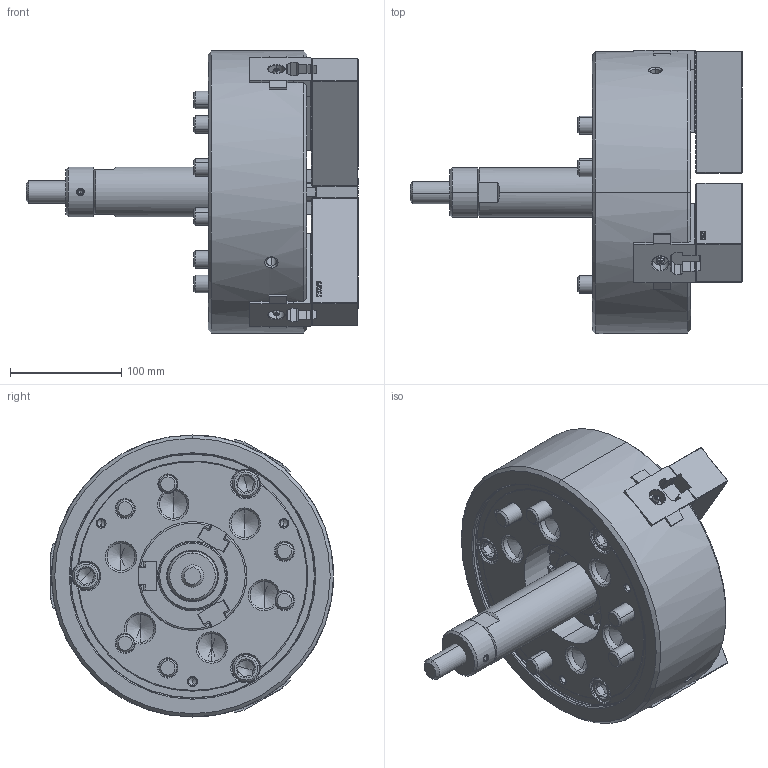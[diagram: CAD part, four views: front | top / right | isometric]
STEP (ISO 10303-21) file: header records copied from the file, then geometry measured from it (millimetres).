
FILE_DESCRIPTION (( 'STEP AP214' ), '1' );
FILE_NAME ('DT1_NL10_OUTSIDE_VIEW_UC.STEP', '2026-03-19T06:26:12', ( '' ), ( '' ), 'SwSTEP 2.0', 'SolidWorks 2022', '' );
FILE_SCHEMA (( 'AUTOMOTIVE_DESIGN' ));
Length unit declared in the file: millimetre
Products named in the file (11): DT1_NL10_DN^DT1_NL10; DT1_NL10_BASE^DT1_NL10; DT1_NL10_TNUT^DT1_NL10; DT1_NL10_SOFTJAW^DT1_NL10; DT1_NL10_M12x35^DT1_NL10; DT1_NL10_COVER^DT1_NL10; DT1_NL10_M16x85^DT1_NL10; DT1_NL10_OUTSIDE_VIEW_UC; DT1_NL10_M5x12^DT1_NL10; Copy of 61P335751^DT1_NL10; DT1_NL10_DRAWSCREW^DT1_NL10
Assembly tree (26 placements, depth 2):
  DT1_NL10_OUTSIDE_VIEW_UC
    DT1_NL10_SOFTJAW^DT1_NL10  x3
    DT1_NL10_TNUT^DT1_NL10  x3
    DT1_NL10_COVER^DT1_NL10
    DT1_NL10_DRAWSCREW^DT1_NL10
    Copy of 61P335751^DT1_NL10
    DT1_NL10_M16x85^DT1_NL10  x6
    DT1_NL10_M12x35^DT1_NL10  x6
    DT1_NL10_M5x12^DT1_NL10  x3
    DT1_NL10_DN^DT1_NL10
    DT1_NL10_BASE^DT1_NL10
Bounding box: 299 x 254.9 x 254 mm (x, y, z)
Volume: 4710632 mm3; surface area: 505195.9 mm2
Topology: 26 solids, 32 shells, 5498 faces, 15610 edges, 10238 vertices
Faces by surface type: plane 3254, cylinder 1492, cone 433, bspline 242, torus 71, sphere 6
Entity records: 118503 total; most frequent: CARTESIAN_POINT 33077, ORIENTED_EDGE 19432, DIRECTION 15334, EDGE_CURVE 9716, LINE 6804, VECTOR 6804, VERTEX_POINT 6378, AXIS2_PLACEMENT_3D 4265
